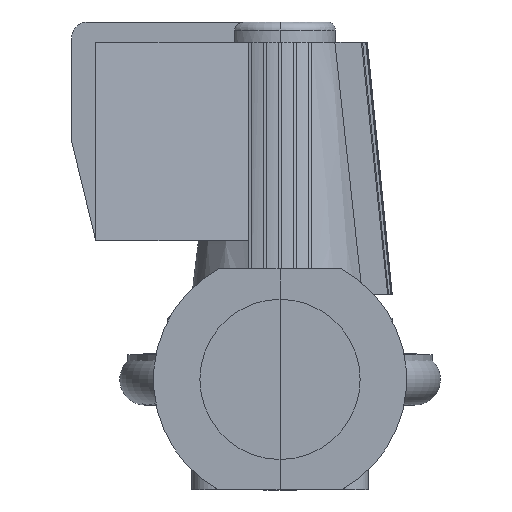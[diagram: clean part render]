
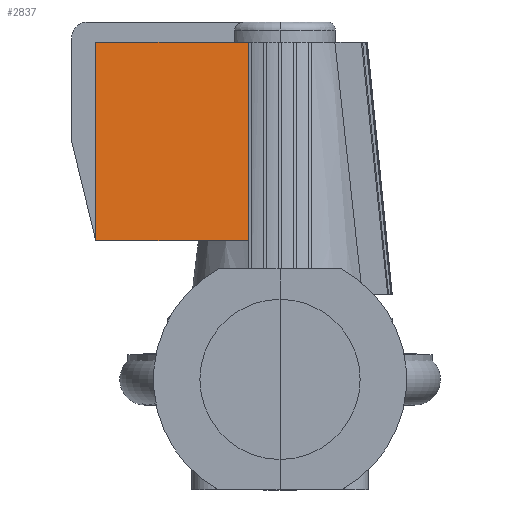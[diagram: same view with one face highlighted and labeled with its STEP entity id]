
A CAD part, left-side view. The second image highlights one B-rep face of the part: STEP entity #2837.
In plain terms, the highlighted planar face has unit normal (-0.997, 0, 0.08).
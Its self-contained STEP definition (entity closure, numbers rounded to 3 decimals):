
#249=PLANE('',#3088);
#402=FACE_OUTER_BOUND('',#582,.T.);
#582=EDGE_LOOP('',(#2397,#2398,#2399,#2400));
#731=LINE('',#5921,#935);
#743=LINE('',#5945,#947);
#748=LINE('',#5955,#952);
#749=LINE('',#5956,#953);
#935=VECTOR('',#3596,304.8);
#947=VECTOR('',#3612,304.8);
#952=VECTOR('',#3621,304.8);
#953=VECTOR('',#3622,304.8);
#1324=VERTEX_POINT('',#5918);
#1325=VERTEX_POINT('',#5920);
#1335=VERTEX_POINT('',#5944);
#1338=VERTEX_POINT('',#5954);
#1690=EDGE_CURVE('',#1325,#1324,#731,.T.);
#1702=EDGE_CURVE('',#1335,#1325,#743,.T.);
#1707=EDGE_CURVE('',#1338,#1324,#748,.T.);
#1708=EDGE_CURVE('',#1335,#1338,#749,.T.);
#2397=ORIENTED_EDGE('',*,*,#1707,.F.);
#2398=ORIENTED_EDGE('',*,*,#1708,.F.);
#2399=ORIENTED_EDGE('',*,*,#1702,.T.);
#2400=ORIENTED_EDGE('',*,*,#1690,.T.);
#2837=ADVANCED_FACE('',(#402),#249,.T.);
#3088=AXIS2_PLACEMENT_3D('',#5953,#3619,#3620);
#3596=DIRECTION('',(0.,1.,0.));
#3612=DIRECTION('',(0.08,0.,0.997));
#3619=DIRECTION('center_axis',(-0.997,0.,0.08));
#3620=DIRECTION('ref_axis',(0.,1.,0.));
#3621=DIRECTION('',(0.08,0.,0.997));
#3622=DIRECTION('',(0.,1.,0.));
#5918=CARTESIAN_POINT('',(26324.,-34366.239,210.5));
#5920=CARTESIAN_POINT('',(26324.,-34461.489,210.5));
#5921=CARTESIAN_POINT('',(26324.,-34461.489,210.5));
#5944=CARTESIAN_POINT('',(26314.,-34461.489,86.5));
#5945=CARTESIAN_POINT('',(26314.,-34461.489,86.5));
#5953=CARTESIAN_POINT('Origin',(26324.,-34481.239,210.5));
#5954=CARTESIAN_POINT('',(26314.,-34366.239,86.5));
#5955=CARTESIAN_POINT('',(26314.,-34366.239,86.5));
#5956=CARTESIAN_POINT('',(26314.,-34461.489,86.5));
